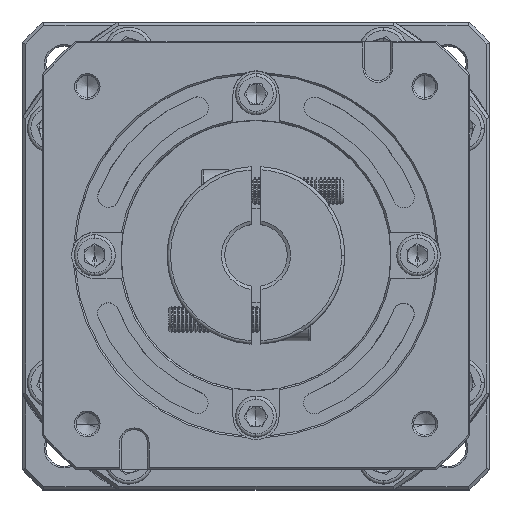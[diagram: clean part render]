
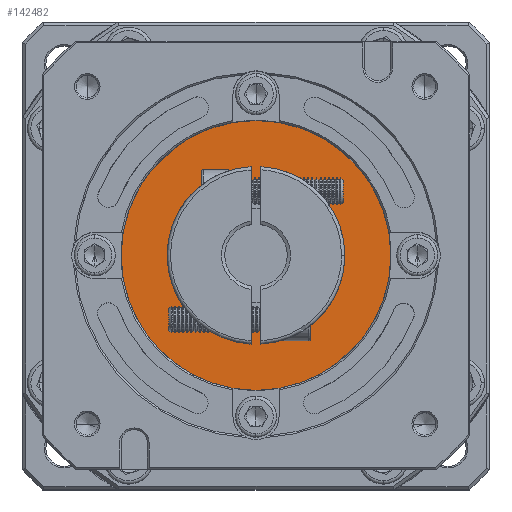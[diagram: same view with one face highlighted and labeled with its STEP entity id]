
A CAD part, top view. The second image highlights one B-rep face of the part: STEP entity #142482.
In plain terms, the highlighted planar face has unit normal (0, 0, 1).
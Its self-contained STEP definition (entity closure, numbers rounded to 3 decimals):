
#583 = CARTESIAN_POINT ( 'NONE',  ( -117.595, 93.131, -34.634 ) ) ;
#2402 = VERTEX_POINT ( 'NONE', #126896 ) ;
#2661 = ORIENTED_EDGE ( 'NONE', *, *, #118803, .T. ) ;
#12308 = VERTEX_POINT ( 'NONE', #130707 ) ;
#18852 = EDGE_CURVE ( 'NONE', #12308, #2402, #118934, .T. ) ;
#23107 = EDGE_CURVE ( 'NONE', #2402, #12308, #119979, .T. ) ;
#26521 = DIRECTION ( 'NONE',  ( 0., 0., 1. ) ) ;
#33596 = AXIS2_PLACEMENT_3D ( 'NONE', #70491, #92292, #93247 ) ;
#34952 = CARTESIAN_POINT ( 'NONE',  ( -117.595, 73.131, -34.634 ) ) ;
#37237 = FACE_OUTER_BOUND ( 'NONE', #97588, .T. ) ;
#37852 = DIRECTION ( 'NONE',  ( 0., 0., 1. ) ) ;
#41250 = VERTEX_POINT ( 'NONE', #81972 ) ;
#43153 = CARTESIAN_POINT ( 'NONE',  ( -117.595, 93.131, -34.634 ) ) ;
#47623 = FACE_BOUND ( 'NONE', #88272, .T. ) ;
#53168 = AXIS2_PLACEMENT_3D ( 'NONE', #43153, #132796, #66713 ) ;
#55077 = ORIENTED_EDGE ( 'NONE', *, *, #23107, .T. ) ;
#65236 = CIRCLE ( 'NONE', #33596, 20. ) ;
#66713 = DIRECTION ( 'NONE',  ( 0., 1., 0. ) ) ;
#70491 = CARTESIAN_POINT ( 'NONE',  ( -117.595, 93.131, -34.634 ) ) ;
#71983 = DIRECTION ( 'NONE',  ( 0., 1., 0. ) ) ;
#72786 = ORIENTED_EDGE ( 'NONE', *, *, #18852, .T. ) ;
#81405 = CARTESIAN_POINT ( 'NONE',  ( -117.595, 93.131, -34.634 ) ) ;
#81598 = CARTESIAN_POINT ( 'NONE',  ( -117.595, 93.131, -34.634 ) ) ;
#81972 = CARTESIAN_POINT ( 'NONE',  ( -117.595, 113.131, -34.634 ) ) ;
#84361 = AXIS2_PLACEMENT_3D ( 'NONE', #583, #88797, #133580 ) ;
#88272 = EDGE_LOOP ( 'NONE', ( #129040, #2661 ) ) ;
#88797 = DIRECTION ( 'NONE',  ( 0., 0., -1. ) ) ;
#90423 = AXIS2_PLACEMENT_3D ( 'NONE', #81598, #37852, #71983 ) ;
#92292 = DIRECTION ( 'NONE',  ( 0., 0., -1. ) ) ;
#93107 = DIRECTION ( 'NONE',  ( 0., 1., 0. ) ) ;
#93247 = DIRECTION ( 'NONE',  ( 0., 1., 0. ) ) ;
#96210 = EDGE_CURVE ( 'NONE', #41250, #139300, #137777, .T. ) ;
#97588 = EDGE_LOOP ( 'NONE', ( #72786, #55077 ) ) ;
#109652 = AXIS2_PLACEMENT_3D ( 'NONE', #81405, #26521, #93107 ) ;
#118803 = EDGE_CURVE ( 'NONE', #139300, #41250, #65236, .T. ) ;
#118934 = CIRCLE ( 'NONE', #90423, 41. ) ;
#119979 = CIRCLE ( 'NONE', #109652, 41. ) ;
#126896 = CARTESIAN_POINT ( 'NONE',  ( -117.595, 52.131, -34.634 ) ) ;
#129040 = ORIENTED_EDGE ( 'NONE', *, *, #96210, .T. ) ;
#130707 = CARTESIAN_POINT ( 'NONE',  ( -117.595, 134.131, -34.634 ) ) ;
#132796 = DIRECTION ( 'NONE',  ( 0., 0., 1. ) ) ;
#133580 = DIRECTION ( 'NONE',  ( 0., 1., 0. ) ) ;
#137777 = CIRCLE ( 'NONE', #84361, 20. ) ;
#139300 = VERTEX_POINT ( 'NONE', #34952 ) ;
#142482 = ADVANCED_FACE ( 'NONE', ( #37237, #47623 ), #142877, .T. ) ;
#142877 = PLANE ( 'NONE',  #53168 ) ;
